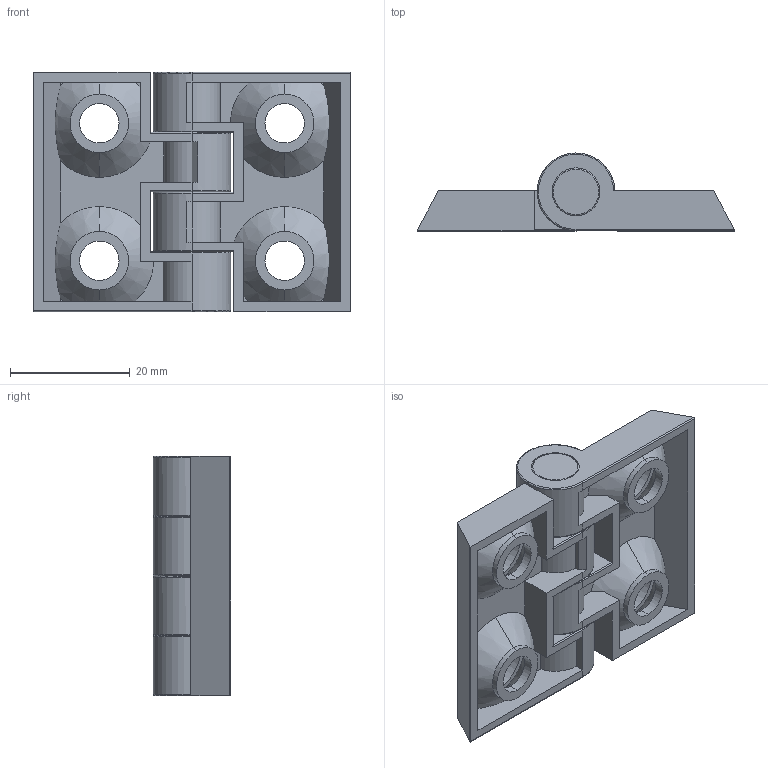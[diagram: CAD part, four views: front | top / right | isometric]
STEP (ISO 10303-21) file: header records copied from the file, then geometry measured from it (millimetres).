
FILE_DESCRIPTION (( 'STEP AP203' ), '1' );
FILE_NAME ('3030郈磁踢磁珜.STEP', '2018-06-06T08:54:32', ( 'China' ), ( 'Home' ), 'SwSTEP 2.0', 'SolidWorks 2013', '' );
FILE_SCHEMA (( 'CONFIG_CONTROL_DESIGN' ));
Length unit declared in the file: millimetre
Products named in the file (1): 3030郈磁踢磁珜
Bounding box: 53 x 13 x 40 mm (x, y, z)
Surface area: 9148.6 mm2 (no closed solid volume)
Topology: 0 solids, 3 shells, 141 faces, 399 edges, 260 vertices
Faces by surface type: plane 62, cylinder 49, cone 16, torus 14
Entity records: 4908 total; most frequent: CARTESIAN_POINT 1055, DIRECTION 825, ORIENTED_EDGE 756, EDGE_CURVE 399, AXIS2_PLACEMENT_3D 312, VERTEX_POINT 260, LINE 201, VECTOR 201
